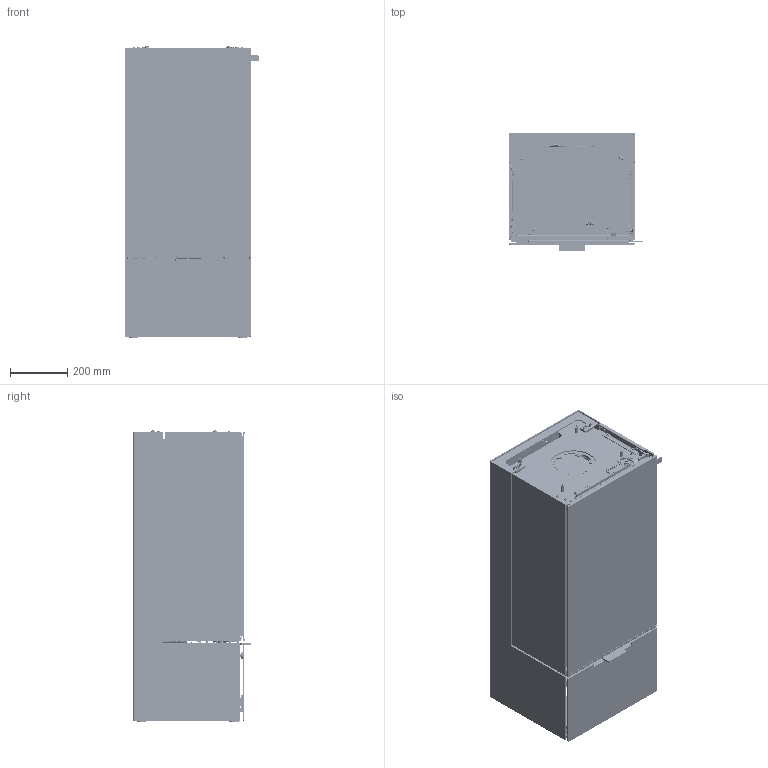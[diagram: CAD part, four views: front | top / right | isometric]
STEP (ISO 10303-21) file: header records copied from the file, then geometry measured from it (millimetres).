
FILE_DESCRIPTION(/* description */ (''),/* implementation_level */ '2;1');
FILE_NAME(/* name */ 'C:\Users\pch.RAIS\Desktop\Ann Charlotte\10-0141.stp',/* time_stamp */ '2018-09-28T10:50:40+02:00',/* author */ ('pch'),/* organization */ (''),/* preprocessor_version */ 'ST-DEVELOPER v16.13',/* originating_system */ 'Autodesk Inventor 2018',/* authorisation */ '');
FILE_SCHEMA (('AUTOMOTIVE_DESIGN { 1 0 10303 214 3 1 1 }'));
Products named in the file (216): 10-0141; 10-0111; 10-0111mon; 10-0111-0101sv; 10-0111-010101; 10-0111-010102; 10-0111-010103; 10-0111-010104; 2610409; 2610410; 10-0000-1201sv; 10-0000-120101; 10-0000-120103; 10-0000-120104; 10-0000-120105; 10-0000-120106; 10-0000-120107; 10-0000-120108; 10-0000-120109; 10-0000-120110; 10-0000-120111; 10-0000-120112; 10-0000-120113; 10-0000-120120; 10-0000-120102; 10-0000-120123; 10-0000-120121; 1711208; 10-34; 10-37; 10-0111-010105; 10-0000-120118; 10-0000-120119; 10-0101-010105; 1710912sv; 1710912; 4021219; 62-03SV; 0110-M6X12 SV.BOLT; 62-03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
Assembly tree (436 placements, depth 5):
  10-0141
    10-0111
      10-0111mon
        10-0111-0101sv
          10-0111-010101
          10-0111-010102
          10-0111-010103
          10-0111-010104
          2610409
          2610410
          0110-M5x8 CYL RÅ LH  x2
        10-0000-1201sv
          10-0000-120101
          10-0000-120103
          10-0000-120104
          10-0000-120105
          10-0000-120106
          10-0000-120107
          10-0000-120108  x2
          10-0000-120109
          10-0000-120110
          10-0000-120111
          10-0000-120112
          10-0000-120113
          10-0000-120120
          10-0000-120102
          10-0000-120123
          10-0000-120121
          1711208
          10-37  x4
          10-34  x2
        10-0111-010105  x2
        10-0000-120118
        10-0000-120119
        10-0101-010105
        1710912sv
          1710912
          4021219
        62-03SV
          0110-M6X12 SV.BOLT  x3
          62-03
        0005580
        3040117
        0110-M5X12 CYL RÅ  x16
        0110-m5 skive plan R  x6
        0110-M5 SKIVE PLAN  x2
        0110-M6X16 6KT FL  x2
        0110-M6 MØTRIK RÅ  x3
        0110-M6 SKIVE FJ
        0110-8X20/M6 PB  x2
        1010-8-14X16 Leje  x2
      10-0000-1801
        10-0000-180101
        10-0000-180102
        1711806
        10-0000-180103mon
          10-0000-180103
          10-0000-180104
          0110-M5X10 CYL RÅ LH  x2
          10-0000-180105
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Bounding box: 469 x 416.51 x 1022 mm (x, y, z)
Volume: 37507667.5 mm3; surface area: 12309304.3 mm2
Topology: 415 solids, 415 shells, 12251 faces, 30370 edges, 19193 vertices
Faces by surface type: plane 6797, cylinder 3741, bspline 695, cone 491, torus 382, sphere 145
Full cylindrical faces by diameter (mm): 1.2 x6, 1.5 x6, 1.75 x3, 2 x4, 2.34 x2, 2.7 x2, 2.89 x2, 3 x1, 3.2 x1, 3.3 x2, 3.5 x27, 4 x5, 4.134 x4, 4.2 x121, 4.3 x6, 4.773 x2, 4.917 x3, 4.95 x5, 5 x189, 5.1 x25, 5.2 x25, 5.3 x17, 5.5 x18, 5.8 x2, 5.9 x4, 6 x55, 6.1 x4, 6.2 x8, 6.4 x4, 6.5 x7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
Entity records: 310665 total; most frequent: CARTESIAN_POINT 91338, DIRECTION 44370, ORIENTED_EDGE 42756, EDGE_CURVE 21378, AXIS2_PLACEMENT_3D 15229, LINE 13912, VECTOR 13912, VERTEX_POINT 13897
